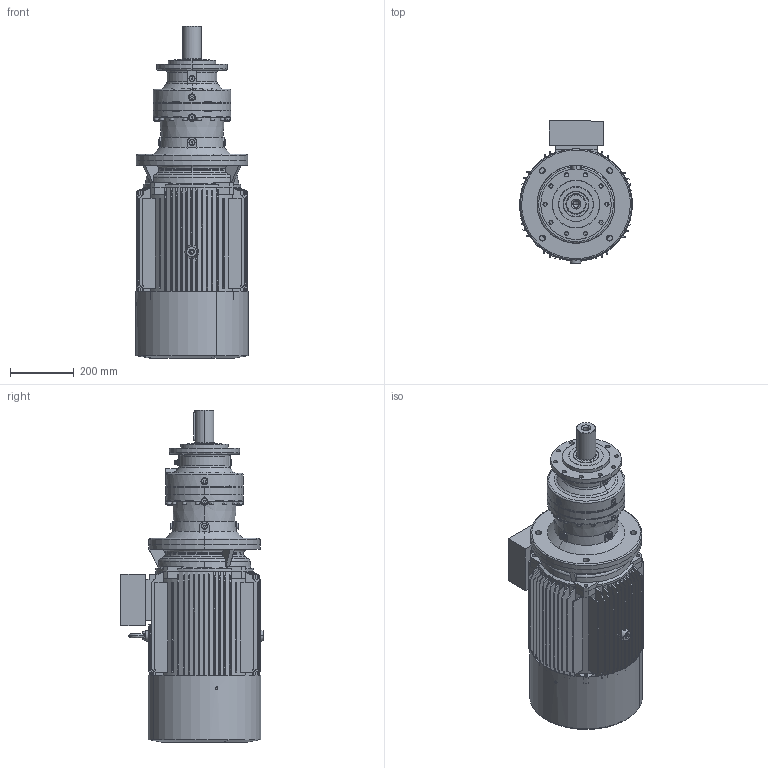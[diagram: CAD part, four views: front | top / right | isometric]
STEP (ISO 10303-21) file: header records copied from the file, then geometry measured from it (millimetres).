
FILE_DESCRIPTION (( 'STEP AP203' ), '1' );
FILE_NAME ('PVL-1501L-HS180L-4.STEP', '2019-05-27T11:03:21', ( '' ), ( '' ), 'SwSTEP 2.0', 'SolidWorks 2012', '' );
FILE_SCHEMA (( 'CONFIG_CONTROL_DESIGN' ));
Products named in the file (14): PVL-1501L-HS180L-4; M3-HS180L-FF-B5; Y2-180-4.6.8+ª-¯ª­-È®+_-++ñ; M3-180L-FF-B5; Y2-180C++A+¦-¯ª¦+¦_-++ñ; Y2-180+¦i-_-++ñ; Eyebolts GB_GB_FASTENER_SCREWS_FRS M12; Y2-180-4.6.8-ª+---®+_-++ñ; Y2-180LB5+À+¿_-++ñ; ML13A_Varsayìlan; PNL_1501L_0_0_A18_B5_ML13A_FL3A_0_0_0_0_0_0_0_0_0_0_0_M1; FL3A_Varsayìlan; P15_Varsayìlan; 15180B5_Varsayìlan
Assembly tree (13 placements, depth 4):
  PVL-1501L-HS180L-4
    PNL_1501L_0_0_A18_B5_ML13A_FL3A_0_0_0_0_0_0_0_0_0_0_0_M1
      P15_Varsayìlan
      15180B5_Varsayìlan
      ML13A_Varsayìlan
      FL3A_Varsayìlan
    M3-HS180L-FF-B5
      M3-180L-FF-B5
        Eyebolts GB_GB_FASTENER_SCREWS_FRS M12
        Y2-180LB5+À+¿_-++ñ
        Y2-180+¦i-_-++ñ
        Y2-180-4.6.8-ª+---®+_-++ñ
        Y2-180C++A+¦-¯ª¦+¦_-++ñ
        Y2-180-4.6.8+ª-¯ª­-È®+_-++ñ
Bounding box: 354.06 x 448.7 x 1045.6 mm (x, y, z)
Volume: 22162377.2 mm3; surface area: 3568715.1 mm2
Topology: 11 solids, 11 shells, 1842 faces, 4906 edges, 3174 vertices
Faces by surface type: plane 770, cylinder 583, cone 328, bspline 129, torus 32
Entity records: 69609 total; most frequent: CARTESIAN_POINT 23065, ORIENTED_EDGE 9740, DIRECTION 9152, EDGE_CURVE 4870, AXIS2_PLACEMENT_3D 3532, VERTEX_POINT 3174, VECTOR 2088, LINE 2088
